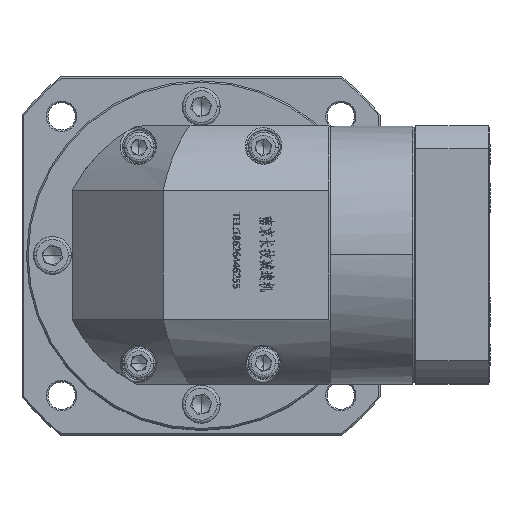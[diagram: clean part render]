
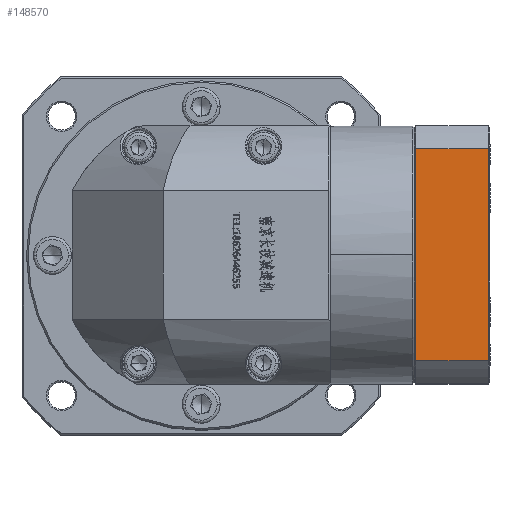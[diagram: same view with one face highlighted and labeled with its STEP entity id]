
A CAD part, top view. The second image highlights one B-rep face of the part: STEP entity #148570.
In plain terms, the highlighted planar face has unit normal (0, 0, 1).
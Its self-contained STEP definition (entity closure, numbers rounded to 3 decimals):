
#1908 = VERTEX_POINT ( 'NONE', #96321 ) ;
#4851 = VERTEX_POINT ( 'NONE', #103994 ) ;
#18972 = CARTESIAN_POINT ( 'NONE',  ( 135.041, 107.381, 46.8 ) ) ;
#24280 = PLANE ( 'NONE',  #150905 ) ;
#27277 = CARTESIAN_POINT ( 'NONE',  ( 135.041, 107.381, 46.8 ) ) ;
#46323 = DIRECTION ( 'NONE',  ( 0., -1., 0. ) ) ;
#51663 = DIRECTION ( 'NONE',  ( 0., 0., -1. ) ) ;
#56924 = ORIENTED_EDGE ( 'NONE', *, *, #165769, .F. ) ;
#60877 = VERTEX_POINT ( 'NONE', #27277 ) ;
#66523 = DIRECTION ( 'NONE',  ( 0., -1., 0. ) ) ;
#69554 = LINE ( 'NONE', #161849, #169421 ) ;
#72357 = ORIENTED_EDGE ( 'NONE', *, *, #108156, .T. ) ;
#80811 = CARTESIAN_POINT ( 'NONE',  ( 135.541, 107.381, 46.8 ) ) ;
#81887 = LINE ( 'NONE', #94838, #166820 ) ;
#82291 = DIRECTION ( 'NONE',  ( 1., 0., 0. ) ) ;
#94838 = CARTESIAN_POINT ( 'NONE',  ( 135.541, 177.202, 46.8 ) ) ;
#96321 = CARTESIAN_POINT ( 'NONE',  ( 135.041, 177.202, 46.8 ) ) ;
#97004 = VERTEX_POINT ( 'NONE', #143929 ) ;
#99108 = VECTOR ( 'NONE', #46323, 1000. ) ;
#103994 = CARTESIAN_POINT ( 'NONE',  ( 111.041, 107.381, 46.8 ) ) ;
#104936 = EDGE_CURVE ( 'NONE', #1908, #60877, #167320, .T. ) ;
#107156 = EDGE_CURVE ( 'NONE', #97004, #1908, #81887, .T. ) ;
#108156 = EDGE_CURVE ( 'NONE', #97004, #4851, #123877, .T. ) ;
#110410 = FACE_OUTER_BOUND ( 'NONE', #121994, .T. ) ;
#121994 = EDGE_LOOP ( 'NONE', ( #127799, #156272, #72357, #56924 ) ) ;
#123877 = LINE ( 'NONE', #176451, #157733 ) ;
#127799 = ORIENTED_EDGE ( 'NONE', *, *, #104936, .F. ) ;
#143929 = CARTESIAN_POINT ( 'NONE',  ( 111.041, 177.202, 46.8 ) ) ;
#147980 = DIRECTION ( 'NONE',  ( -1., 0., 0. ) ) ;
#148570 = ADVANCED_FACE ( 'NONE', ( #110410 ), #24280, .F. ) ;
#150542 = DIRECTION ( 'NONE',  ( -1., 0., 0. ) ) ;
#150905 = AXIS2_PLACEMENT_3D ( 'NONE', #80811, #51663, #147980 ) ;
#156272 = ORIENTED_EDGE ( 'NONE', *, *, #107156, .F. ) ;
#157733 = VECTOR ( 'NONE', #66523, 1000. ) ;
#161849 = CARTESIAN_POINT ( 'NONE',  ( 135.541, 107.381, 46.8 ) ) ;
#165769 = EDGE_CURVE ( 'NONE', #60877, #4851, #69554, .T. ) ;
#166820 = VECTOR ( 'NONE', #82291, 1000. ) ;
#167320 = LINE ( 'NONE', #18972, #99108 ) ;
#169421 = VECTOR ( 'NONE', #150542, 1000. ) ;
#176451 = CARTESIAN_POINT ( 'NONE',  ( 111.041, 107.381, 46.8 ) ) ;
